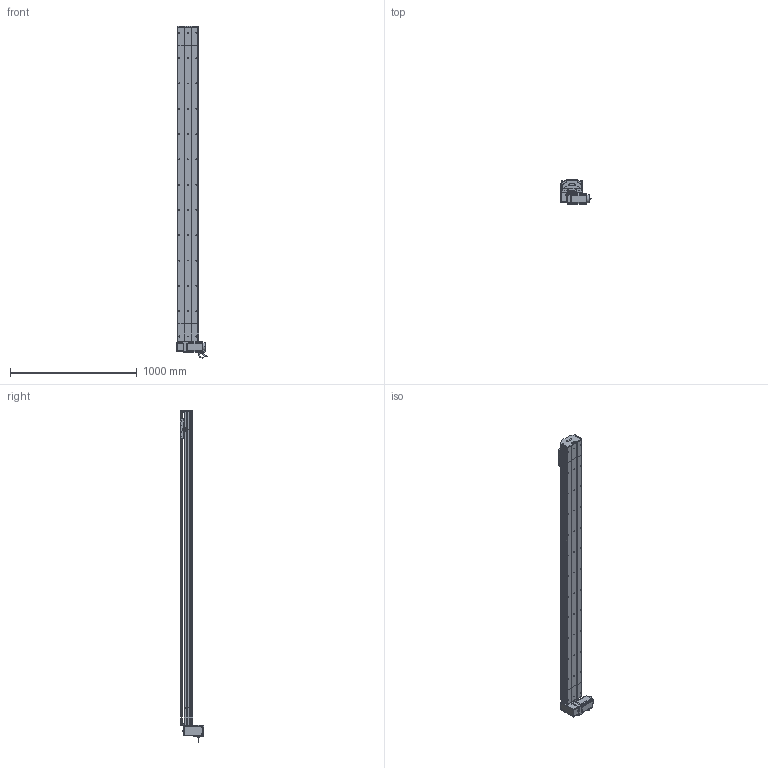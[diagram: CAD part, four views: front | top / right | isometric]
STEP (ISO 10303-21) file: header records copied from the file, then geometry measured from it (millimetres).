
FILE_DESCRIPTION (( 'STEP AP214' ), '1' );
FILE_NAME ('D17 TBH RU S2200.STEP', '2010-06-30T08:33:34', ( 'Christophe Gaillard' ), ( 'SGA' ), 'SwSTEP 2.0', 'SolidWorks 2010', '' );
FILE_SCHEMA (( 'AUTOMOTIVE_DESIGN' ));
Length unit declared in the file: millimetre
Products named in the file (40): poulie head_Default; vis M5 L5_Default; couroie head D17_Default; plaque de  bout head D17B RU_Default; Moteur motionking 90BLDC125A-640; avant 90BLDC125A-640; Head RU D17B_Default; guide D17; vis M5 L12_Default; D17 TBH RU S2200; corpl head D17 _Default; course 2200 D17B_Default; corp D17B 2200_Default; couvercle D17B course L2200_Default; Arbre+rail head D17B; Couroie+ rail D17 Course 2200 ; Conecteur2_Default; codeur 90BLDC125-640; corps 90BLDC125A-640; vis M5 L16_Default; Plaque racord D17_Default; vis M5 L70_Default; Conecteur_Default; Renvoi RU_Default; cache arbre D17_Default; Vis M5 L16-2_Default; tete d''axe poulie D17B; corpl tail D17B_Default; Tail D17B_Default; poulie tail_Default; plaque de  bout tail D17B_Default; Rail D17B; vis M5 L8 90°_Default; couvercle D17B_Default; Couroie tail D17B_Default; Chariot D17; chariot D17S_Default; vis M5 L25_Default; couvercle D17B head_Default; cache D17_Default
Assembly tree (70 placements, depth 4):
  D17 TBH RU S2200
    chariot D17S_Default
      Chariot D17
      guide D17  x2
      vis M5 L12_Default  x4
    Tail D17B_Default
      vis M5 L8 90°_Default  x2
      vis M5 L12_Default  x4
      Rail D17B
      couvercle D17B_Default
      plaque de  bout tail D17B_Default
      Couroie tail D17B_Default
      poulie tail_Default
      vis M5 L25_Default  x2
      tete d''axe poulie D17B
      corpl tail D17B_Default
    course 2200 D17B_Default
      Couroie+ rail D17 Course 2200 
      corp D17B 2200_Default
      couvercle D17B course L2200_Default
    Head RU D17B_Default
      vis M5 L70_Default  x4
      cache D17_Default  x2
      Plaque racord D17_Default
      vis M5 L12_Default  x8
      Moteur motionking 90BLDC125A-640
        Conecteur2_Default
        codeur 90BLDC125-640
        Conecteur_Default
        corps 90BLDC125A-640
        avant 90BLDC125A-640
      Vis M5 L16-2_Default  x4
      Arbre+rail head D17B
      vis M5 L5_Default  x4
      plaque de  bout head D17B RU_Default
      Renvoi RU_Default
      couvercle D17B head_Default
      corpl head D17 _Default
      vis M5 L25_Default  x2
      vis M5 L16_Default  x2
      cache arbre D17_Default
      couroie head D17_Default
      poulie head_Default
Bounding box: 245.2 x 188.65 x 2623.95 mm (x, y, z)
Volume: 15355739.8 mm3; surface area: 4427255.8 mm2
Topology: 94 solids, 94 shells, 2725 faces, 6909 edges, 4446 vertices
Faces by surface type: plane 1607, cylinder 805, bspline 136, cone 88, torus 85, sphere 4
Entity records: 85776 total; most frequent: CARTESIAN_POINT 25265, ORIENTED_EDGE 10590, DIRECTION 10044, EDGE_CURVE 5295, LINE 3486, VECTOR 3486, VERTEX_POINT 3470, AXIS2_PLACEMENT_3D 3279
